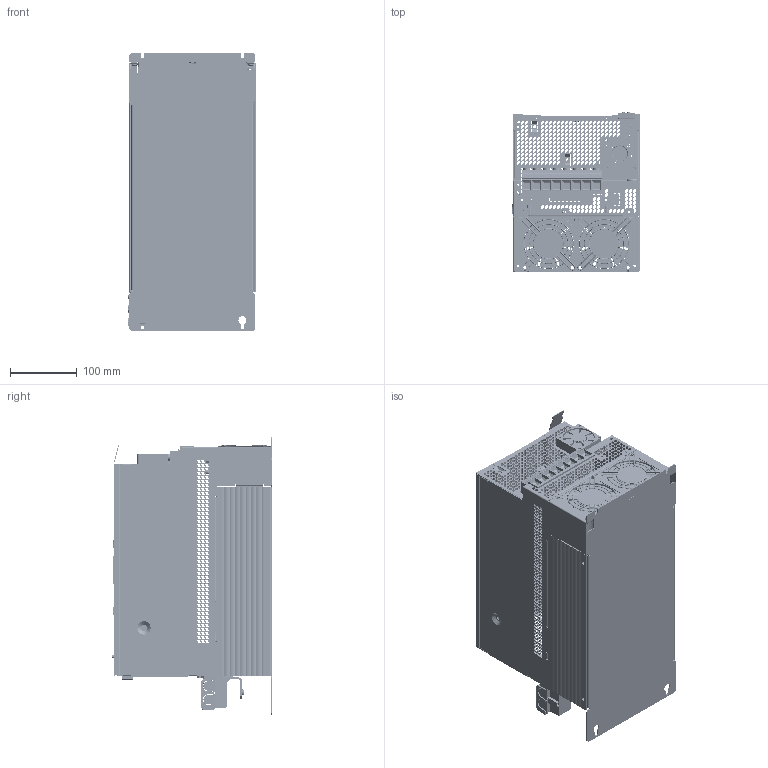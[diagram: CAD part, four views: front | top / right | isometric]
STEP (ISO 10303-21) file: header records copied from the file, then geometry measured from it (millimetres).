
FILE_DESCRIPTION(/* description */ (''),/* implementation_level */ '2;1');
FILE_NAME(/* name */ 'CB01177-001',/* time_stamp */ '2010-05-11T13:58:01+02:00',/* author */ (''),/* organization */ (''),/* preprocessor_version */ 'ST-DEVELOPER v9',/* originating_system */ 'UGS - NX 4.0',/* authorisation */ '');
FILE_SCHEMA (('AUTOMOTIVE_DESIGN { 1 0 10303 214 1 1 1 1 }'));
Products named in the file (1): sdum1C1797ne
Bounding box: 191.4 x 240.9 x 418.5 mm (x, y, z)
Volume: 2571207.3 mm3; surface area: 2235979.9 mm2
Topology: 85 solids, 85 shells, 10026 faces, 27249 edges, 17686 vertices
Faces by surface type: plane 5265, bspline 2501, cylinder 1903, cone 239, torus 107, sphere 11
Entity records: 407092 total; most frequent: CARTESIAN_POINT 101649, ORIENTED_EDGE 54410, DIRECTION 40256, EDGE_CURVE 27205, VERTEX_POINT 17686, LINE 17300, VECTOR 17300, EDGE_LOOP 13101
